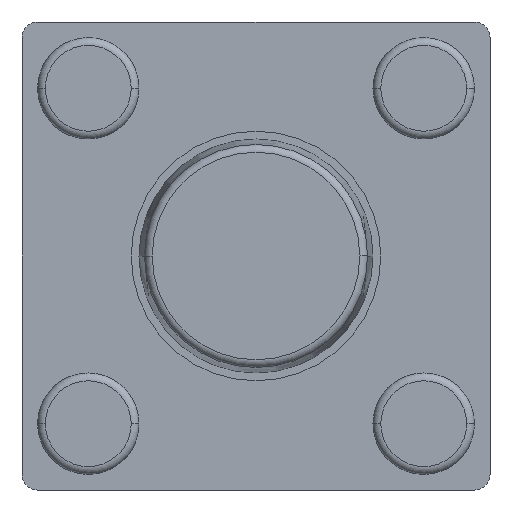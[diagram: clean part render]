
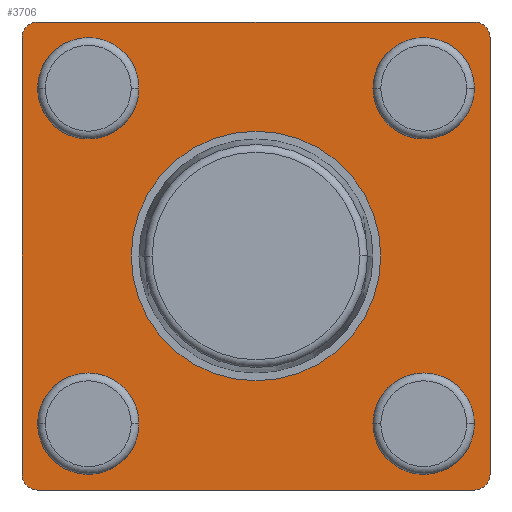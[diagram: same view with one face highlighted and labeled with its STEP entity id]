
A CAD part, front view. The second image highlights one B-rep face of the part: STEP entity #3706.
In plain terms, the highlighted planar face has unit normal (0, -1, 0).
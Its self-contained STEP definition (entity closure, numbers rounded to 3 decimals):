
#3249=CARTESIAN_POINT('',(-2.15,-0.2,-2.15));
#3250=DIRECTION('',(0.,-1.,0.));
#3251=DIRECTION('',(1.,0.,0.));
#3252=AXIS2_PLACEMENT_3D('',#3249,#3250,#3251);
#3257=CARTESIAN_POINT('',(-2.15,-0.2,-2.15));
#3258=DIRECTION('',(0.,-1.,0.));
#3259=DIRECTION('',(-1.,0.,0.));
#3260=AXIS2_PLACEMENT_3D('',#3257,#3258,#3259);
#3265=CARTESIAN_POINT('',(2.15,-0.2,-2.15));
#3266=DIRECTION('',(0.,-1.,0.));
#3267=DIRECTION('',(1.,0.,0.));
#3268=AXIS2_PLACEMENT_3D('',#3265,#3266,#3267);
#3273=CARTESIAN_POINT('',(2.15,-0.2,-2.15));
#3274=DIRECTION('',(0.,-1.,0.));
#3275=DIRECTION('',(-1.,0.,0.));
#3276=AXIS2_PLACEMENT_3D('',#3273,#3274,#3275);
#3281=CARTESIAN_POINT('',(2.15,-0.2,2.15));
#3282=DIRECTION('',(0.,-1.,0.));
#3283=DIRECTION('',(1.,0.,0.));
#3284=AXIS2_PLACEMENT_3D('',#3281,#3282,#3283);
#3289=CARTESIAN_POINT('',(2.15,-0.2,2.15));
#3290=DIRECTION('',(0.,-1.,0.));
#3291=DIRECTION('',(-1.,0.,0.));
#3292=AXIS2_PLACEMENT_3D('',#3289,#3290,#3291);
#3297=CARTESIAN_POINT('',(-2.15,-0.2,2.15));
#3298=DIRECTION('',(0.,-1.,0.));
#3299=DIRECTION('',(1.,0.,0.));
#3300=AXIS2_PLACEMENT_3D('',#3297,#3298,#3299);
#3305=CARTESIAN_POINT('',(-2.15,-0.2,2.15));
#3306=DIRECTION('',(0.,-1.,0.));
#3307=DIRECTION('',(-1.,0.,0.));
#3308=AXIS2_PLACEMENT_3D('',#3305,#3306,#3307);
#3313=CARTESIAN_POINT('',(0.,-0.2,0.));
#3314=DIRECTION('',(0.,-1.,0.));
#3315=DIRECTION('',(1.,0.,0.));
#3316=AXIS2_PLACEMENT_3D('',#3313,#3314,#3315);
#3321=CARTESIAN_POINT('',(0.,-0.2,0.));
#3322=DIRECTION('',(0.,-1.,0.));
#3323=DIRECTION('',(-1.,0.,0.));
#3324=AXIS2_PLACEMENT_3D('',#3321,#3322,#3323);
#3329=CARTESIAN_POINT('',(-2.8,-0.2,-2.8));
#3330=DIRECTION('',(0.,-1.,0.));
#3331=DIRECTION('',(-1.,0.,0.));
#3332=AXIS2_PLACEMENT_3D('',#3329,#3330,#3331);
#3337=DIRECTION('',(0.,0.,1.));
#3338=VECTOR('',#3337,5.6);
#3339=CARTESIAN_POINT('',(-3.,-0.2,-2.8));
#3340=LINE('',#3339,#3338);
#3344=CARTESIAN_POINT('',(-2.8,-0.2,2.8));
#3345=DIRECTION('',(0.,-1.,0.));
#3346=DIRECTION('',(0.,0.,1.));
#3347=AXIS2_PLACEMENT_3D('',#3344,#3345,#3346);
#3352=DIRECTION('',(1.,0.,0.));
#3353=VECTOR('',#3352,5.6);
#3354=CARTESIAN_POINT('',(-2.8,-0.2,3.));
#3355=LINE('',#3354,#3353);
#3359=CARTESIAN_POINT('',(2.8,-0.2,2.8));
#3360=DIRECTION('',(0.,-1.,0.));
#3361=DIRECTION('',(1.,0.,0.));
#3362=AXIS2_PLACEMENT_3D('',#3359,#3360,#3361);
#3367=DIRECTION('',(0.,0.,-1.));
#3368=VECTOR('',#3367,5.6);
#3369=CARTESIAN_POINT('',(3.,-0.2,2.8));
#3370=LINE('',#3369,#3368);
#3374=CARTESIAN_POINT('',(2.8,-0.2,-2.8));
#3375=DIRECTION('',(0.,-1.,0.));
#3376=DIRECTION('',(0.,0.,-1.));
#3377=AXIS2_PLACEMENT_3D('',#3374,#3375,#3376);
#3382=DIRECTION('',(-1.,0.,0.));
#3383=VECTOR('',#3382,5.6);
#3384=CARTESIAN_POINT('',(2.8,-0.2,-3.));
#3385=LINE('',#3384,#3383);
#3517=CARTESIAN_POINT('',(-1.75,-0.2,-2.15));
#3518=CARTESIAN_POINT('',(-2.55,-0.2,-2.15));
#3519=VERTEX_POINT('',#3517);
#3520=VERTEX_POINT('',#3518);
#3521=CARTESIAN_POINT('',(2.55,-0.2,-2.15));
#3522=CARTESIAN_POINT('',(1.75,-0.2,-2.15));
#3523=VERTEX_POINT('',#3521);
#3524=VERTEX_POINT('',#3522);
#3525=CARTESIAN_POINT('',(2.55,-0.2,2.15));
#3526=CARTESIAN_POINT('',(1.75,-0.2,2.15));
#3527=VERTEX_POINT('',#3525);
#3528=VERTEX_POINT('',#3526);
#3529=CARTESIAN_POINT('',(-1.75,-0.2,2.15));
#3530=CARTESIAN_POINT('',(-2.55,-0.2,2.15));
#3531=VERTEX_POINT('',#3529);
#3532=VERTEX_POINT('',#3530);
#3537=CARTESIAN_POINT('',(1.6,-0.2,0.));
#3538=CARTESIAN_POINT('',(-1.6,-0.2,0.));
#3539=VERTEX_POINT('',#3537);
#3540=VERTEX_POINT('',#3538);
#3545=CARTESIAN_POINT('',(-3.,-0.2,-2.8));
#3546=VERTEX_POINT('',#3545);
#3547=CARTESIAN_POINT('',(-2.8,-0.2,-3.));
#3548=VERTEX_POINT('',#3547);
#3553=CARTESIAN_POINT('',(-2.8,-0.2,3.));
#3554=VERTEX_POINT('',#3553);
#3555=CARTESIAN_POINT('',(-3.,-0.2,2.8));
#3556=VERTEX_POINT('',#3555);
#3561=CARTESIAN_POINT('',(3.,-0.2,2.8));
#3562=VERTEX_POINT('',#3561);
#3563=CARTESIAN_POINT('',(2.8,-0.2,3.));
#3564=VERTEX_POINT('',#3563);
#3569=CARTESIAN_POINT('',(2.8,-0.2,-3.));
#3570=VERTEX_POINT('',#3569);
#3571=CARTESIAN_POINT('',(3.,-0.2,-2.8));
#3572=VERTEX_POINT('',#3571);
#3655=CARTESIAN_POINT('',(0.,-0.2,0.));
#3656=DIRECTION('',(0.,1.,0.));
#3657=DIRECTION('',(1.,0.,0.));
#3658=AXIS2_PLACEMENT_3D('',#3655,#3656,#3657);
#3659=PLANE('',#3658);
#3661=ORIENTED_EDGE('',*,*,#3660,.F.);
#3663=ORIENTED_EDGE('',*,*,#3662,.T.);
#3665=ORIENTED_EDGE('',*,*,#3664,.F.);
#3667=ORIENTED_EDGE('',*,*,#3666,.T.);
#3669=ORIENTED_EDGE('',*,*,#3668,.F.);
#3671=ORIENTED_EDGE('',*,*,#3670,.T.);
#3673=ORIENTED_EDGE('',*,*,#3672,.F.);
#3675=ORIENTED_EDGE('',*,*,#3674,.T.);
#3676=EDGE_LOOP('',(#3661,#3663,#3665,#3667,#3669,#3671,#3673,#3675));
#3677=FACE_OUTER_BOUND('',#3676,.F.);
#3679=ORIENTED_EDGE('',*,*,#3678,.T.);
#3681=ORIENTED_EDGE('',*,*,#3680,.T.);
#3682=EDGE_LOOP('',(#3679,#3681));
#3683=FACE_BOUND('',#3682,.F.);
#3685=ORIENTED_EDGE('',*,*,#3684,.T.);
#3687=ORIENTED_EDGE('',*,*,#3686,.T.);
#3688=EDGE_LOOP('',(#3685,#3687));
#3689=FACE_BOUND('',#3688,.F.);
#3691=ORIENTED_EDGE('',*,*,#3690,.T.);
#3693=ORIENTED_EDGE('',*,*,#3692,.T.);
#3694=EDGE_LOOP('',(#3691,#3693));
#3695=FACE_BOUND('',#3694,.F.);
#3697=ORIENTED_EDGE('',*,*,#3696,.T.);
#3699=ORIENTED_EDGE('',*,*,#3698,.T.);
#3700=EDGE_LOOP('',(#3697,#3699));
#3701=FACE_BOUND('',#3700,.F.);
#3702=ORIENTED_EDGE('',*,*,#3635,.T.);
#3703=ORIENTED_EDGE('',*,*,#3649,.T.);
#3704=EDGE_LOOP('',(#3702,#3703));
#3705=FACE_BOUND('',#3704,.F.);
#3253=CIRCLE('',#3252,0.4);
#3261=CIRCLE('',#3260,0.4);
#3269=CIRCLE('',#3268,0.4);
#3277=CIRCLE('',#3276,0.4);
#3285=CIRCLE('',#3284,0.4);
#3293=CIRCLE('',#3292,0.4);
#3301=CIRCLE('',#3300,0.4);
#3309=CIRCLE('',#3308,0.4);
#3317=CIRCLE('',#3316,1.6);
#3325=CIRCLE('',#3324,1.6);
#3333=CIRCLE('',#3332,0.2);
#3348=CIRCLE('',#3347,0.2);
#3363=CIRCLE('',#3362,0.2);
#3378=CIRCLE('',#3377,0.2);
#3635=EDGE_CURVE('',#3519,#3520,#3253,.T.);
#3649=EDGE_CURVE('',#3520,#3519,#3261,.T.);
#3660=EDGE_CURVE('',#3546,#3548,#3333,.T.);
#3662=EDGE_CURVE('',#3546,#3556,#3340,.T.);
#3664=EDGE_CURVE('',#3554,#3556,#3348,.T.);
#3666=EDGE_CURVE('',#3554,#3564,#3355,.T.);
#3668=EDGE_CURVE('',#3562,#3564,#3363,.T.);
#3670=EDGE_CURVE('',#3562,#3572,#3370,.T.);
#3672=EDGE_CURVE('',#3570,#3572,#3378,.T.);
#3674=EDGE_CURVE('',#3570,#3548,#3385,.T.);
#3678=EDGE_CURVE('',#3523,#3524,#3269,.T.);
#3680=EDGE_CURVE('',#3524,#3523,#3277,.T.);
#3684=EDGE_CURVE('',#3527,#3528,#3285,.T.);
#3686=EDGE_CURVE('',#3528,#3527,#3293,.T.);
#3690=EDGE_CURVE('',#3531,#3532,#3301,.T.);
#3692=EDGE_CURVE('',#3532,#3531,#3309,.T.);
#3696=EDGE_CURVE('',#3539,#3540,#3317,.T.);
#3698=EDGE_CURVE('',#3540,#3539,#3325,.T.);
#3706=ADVANCED_FACE('',(#3677,#3683,#3689,#3695,#3701,#3705),#3659,.F.);
